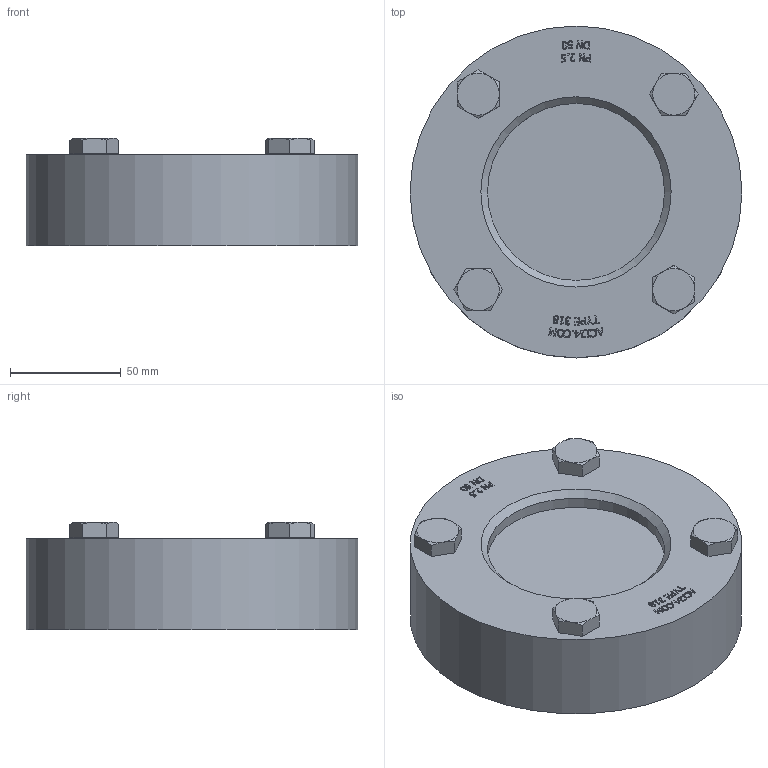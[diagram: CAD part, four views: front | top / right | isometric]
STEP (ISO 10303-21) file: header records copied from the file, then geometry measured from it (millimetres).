
FILE_DESCRIPTION(/* description */ (''),/* implementation_level */ '2;1');
FILE_NAME(/* name */ 'W:\Konstruktion_ACI\318\_STEP\ACI-318-50.stp',/* time_stamp */ '2022-03-02T18:06:41+01:00',/* author */ ('Travnicek'),/* organization */ (''),/* preprocessor_version */ 'ST-DEVELOPER v16.1',/* originating_system */ 'Autodesk Inventor 2016',/* authorisation */ '');
FILE_SCHEMA (('AUTOMOTIVE_DESIGN { 1 0 10303 214 3 1 1 }'));
Length unit declared in the file: centimetre
Products named in the file (1): ACI-318-50.stp
Bounding box: 150 x 150 x 48.5 mm (x, y, z)
Volume: 585860.3 mm3; surface area: 62368.7 mm2
Topology: 1 solids, 1 shells, 455 faces, 1202 edges, 793 vertices
Faces by surface type: plane 253, bspline 169, cone 26, cylinder 7
Full cylindrical faces by diameter (mm): 17.2 x4, 80 x2, 150 x1
Entity records: 15186 total; most frequent: CARTESIAN_POINT 4733, ORIENTED_EDGE 2384, DIRECTION 1420, EDGE_CURVE 1192, VERTEX_POINT 792, LINE 766, VECTOR 766, EDGE_LOOP 508
